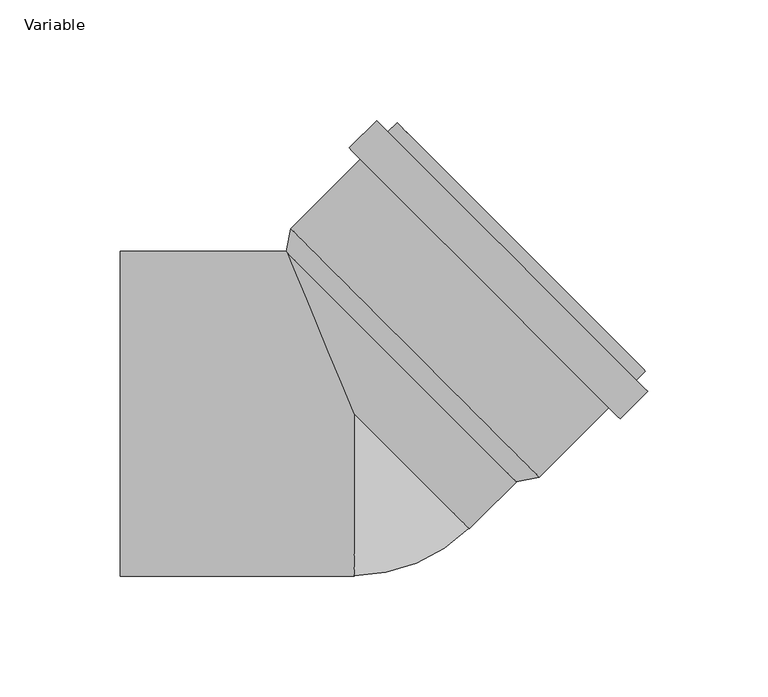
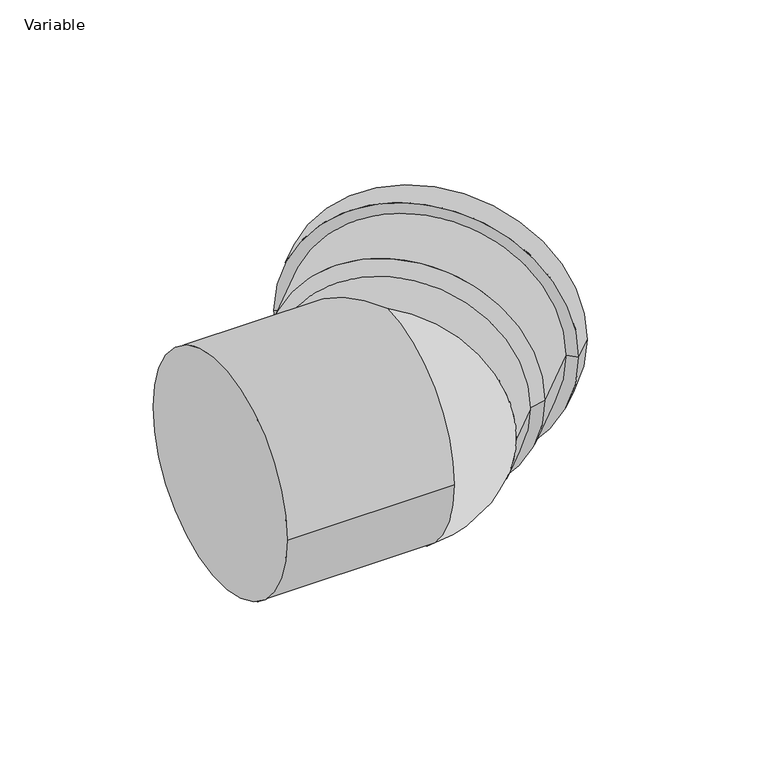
"""IFC4 building model written with IfcOpenShell, lengths in millimetres: pipe fitting geometry, AliaxisFR_Friaphon_ElbowMF_FR : Variable."""

from ifc_helpers import new_model, si_unit, point, frame, origin, place, context, project, spatial, polyline, circle_curve, ellipse_curve, trimmed, source, transform, mapped, element, save
from ifc_brep_helpers import plane_surface, cylinder_surface, revolved_surface, advanced_brep


def variable_8f7e54a3(model_context):
    return source(origin(), model_context, "Body", "AdvancedBrep", [
        advanced_brep(
        [(120.8445489, 17.7483802, 0.0), (17.7483802, 120.8445489, 0.0), (21.5667568, 117.0261723, 0.0), (117.0261723, 21.5667568, 0.0), (110.3086579, -2.1213203, 0.0), (-2.1213203, 110.3086579, 0.0), (9.2630988, 121.693077, 0.0), (121.693077, 9.2630988, 0.0), (105.6417531, 2.5455844, 0.0), (2.5455844, 105.6417531, 0.0), (76.7917964, -26.3043723, 0.0), (-26.3043723, 76.7917964, 0.0), (-28.2135606, 67.2458549, 0.0), (67.2458549, -28.2135606, 0.0), (117.0261723, 13.9300036, 0.0), (13.9300036, 117.0261723, 0.0)],
        [
            (0, 1, circle_curve(frame((69.2964646, 69.2964646, 0.0), z_axis=(0.707106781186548, 0.7071067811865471, 0.0), x_axis=(-0.7071067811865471, 0.707106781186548, 0.0)), 72.9)),
            (1, 2),
            (2, 3, circle_curve(frame((69.2964646, 69.2964646, 0.0), z_axis=(-0.707106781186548, -0.7071067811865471, 0.0), x_axis=(-0.7071067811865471, 0.707106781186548, 0.0)), 67.5)),
            (3, 0),
            (1, 0, circle_curve(frame((69.2964646, 69.2964646, 0.0), z_axis=(0.707106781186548, 0.7071067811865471, 0.0), x_axis=(-0.7071067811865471, 0.707106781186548, 0.0)), 72.9)),
            (3, 2, circle_curve(frame((69.2964646, 69.2964646, 0.0), z_axis=(-0.707106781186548, -0.7071067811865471, 0.0), x_axis=(-0.7071067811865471, 0.707106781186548, 0.0)), 67.5)),
            (4, 5, circle_curve(frame((54.0936688, 54.0936688, 0.0), z_axis=(0.707106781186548, 0.7071067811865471, 0.0), x_axis=(-0.7071067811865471, 0.707106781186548, 0.0)), 79.5)),
            (5, 6),
            (6, 7, circle_curve(frame((65.4780879, 65.4780879, 0.0), z_axis=(-0.707106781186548, -0.7071067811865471, 0.0), x_axis=(-0.7071067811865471, 0.707106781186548, 0.0)), 79.5)),
            (7, 4),
            (5, 4, circle_curve(frame((54.0936688, 54.0936688, 0.0), z_axis=(0.707106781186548, 0.7071067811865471, 0.0), x_axis=(-0.7071067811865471, 0.707106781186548, 0.0)), 79.5)),
            (7, 6, circle_curve(frame((65.4780879, 65.4780879, 0.0), z_axis=(-0.707106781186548, -0.7071067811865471, 0.0), x_axis=(-0.7071067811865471, 0.707106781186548, 0.0)), 79.5)),
            (8, 9, circle_curve(frame((54.0936688, 54.0936688, 0.0), z_axis=(0.707106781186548, 0.7071067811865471, 0.0), x_axis=(-0.7071067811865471, 0.707106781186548, 0.0)), 72.9)),
            (9, 5),
            (4, 8),
            (9, 8, circle_curve(frame((54.0936688, 54.0936688, 0.0), z_axis=(0.707106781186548, 0.7071067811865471, 0.0), x_axis=(-0.7071067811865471, 0.707106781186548, 0.0)), 72.9)),
            (10, 11, circle_curve(frame((25.2437121, 25.2437121, 0.0), z_axis=(0.707106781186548, 0.7071067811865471, 0.0), x_axis=(-0.7071067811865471, 0.707106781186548, 0.0)), 72.9)),
            (11, 9),
            (8, 10),
            (11, 10, circle_curve(frame((25.2437121, 25.2437121, 0.0), z_axis=(0.707106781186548, 0.7071067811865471, 0.0), x_axis=(-0.7071067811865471, 0.707106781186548, 0.0)), 72.9)),
            (2, 12),
            (12, 13, circle_curve(frame((19.5161472, 19.5161472, 0.0), z_axis=(-0.707106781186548, -0.7071067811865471, 0.0), x_axis=(-0.7071067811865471, 0.707106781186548, 0.0)), 67.5)),
            (13, 3),
            (13, 12, circle_curve(frame((19.5161472, 19.5161472, 0.0), z_axis=(-0.707106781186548, -0.7071067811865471, 0.0), x_axis=(-0.7071067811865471, 0.707106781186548, 0.0)), 67.5)),
            (12, 11),
            (10, 13),
            (14, 15, circle_curve(frame((65.4780879, 65.4780879, 0.0), z_axis=(0.707106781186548, 0.7071067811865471, 0.0), x_axis=(-0.7071067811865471, 0.707106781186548, 0.0)), 72.9)),
            (15, 1),
            (0, 14),
            (15, 14, circle_curve(frame((65.4780879, 65.4780879, 0.0), z_axis=(0.707106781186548, 0.7071067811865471, 0.0), x_axis=(-0.7071067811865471, 0.707106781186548, 0.0)), 72.9)),
            (6, 15),
            (14, 7),
        ],
        [
            plane_surface(frame((69.2964646, 69.2964646, 0.0), z_axis=(0.707106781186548, 0.7071067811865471, 0.0), x_axis=(-0.7071067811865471, 0.707106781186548, 0.0))),
            cylinder_surface(frame((19.5161472, 19.5161472, 0.0), z_axis=(-0.707106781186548, -0.7071067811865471, 0.0), x_axis=(-0.7071067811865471, 0.707106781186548, 0.0)), 79.5),
            plane_surface(frame((54.0936688, 54.0936688, 0.0), z_axis=(-0.707106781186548, -0.7071067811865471, 0.0), x_axis=(-0.7071067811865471, 0.707106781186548, 0.0))),
            cylinder_surface(frame((19.5161472, 19.5161472, 0.0), z_axis=(-0.707106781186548, -0.7071067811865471, 0.0), x_axis=(-0.7071067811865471, 0.707106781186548, 0.0)), 72.9),
            revolved_surface(polyline([(-28.21356058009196, 67.24585488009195, 0.0), (21.566756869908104, 117.02617233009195, 0.0)]), (19.5161472, 19.5161472, 0.0), (-0.707106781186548, -0.7071067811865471, 0.0)),
            revolved_surface(polyline([(-26.3043723, 76.7917964, 0.0), (-28.2135606, 67.2458549, 0.0)]), (19.5161472, 19.5161472, 0.0), (-0.707106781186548, -0.7071067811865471, 0.0)),
            plane_surface(frame((65.4780879, 65.4780879, 0.0), z_axis=(0.707106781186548, 0.7071067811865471, 0.0), x_axis=(-0.7071067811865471, 0.707106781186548, 0.0))),
        ],
        [
            (0, [[1, 2, 3, 4]]),
            (0, [[5, -4, 6, -2]]),
            (1, [[7, 8, 9, 10]]),
            (1, [[11, -10, 12, -8]]),
            (2, [[13, 14, -7, 15]]),
            (2, [[16, -15, -11, -14]]),
            (3, [[17, 18, -13, 19]]),
            (3, [[20, -19, -16, -18]]),
            (4, [[-3, 21, 22, 23]]),
            (4, [[-6, -23, 24, -21]]),
            (5, [[-22, 25, -17, 26]]),
            (5, [[-24, -26, -20, -25]]),
            (3, [[27, 28, -1, 29]]),
            (3, [[30, -29, -5, -28]]),
            (6, [[-9, 31, -27, 32]]),
            (6, [[-12, -32, -30, -31]]),
        ],
    ),
        advanced_brep(
        [(-24.395184, 71.0642315, 0.0), (71.0642315, -24.395184, 0.0), (47.7297077, -47.7297077, 0.0), (-27.9594155, 67.5, 0.0), (0.0, 0.0, 67.5), (0.0, 0.0, -67.5), (-97.0, -67.5, 0.0), (-97.0, 67.5, 0.0), (0.0, -67.5, 0.0)],
        [
            (0, 1, circle_curve(frame((23.3345238, 23.3345238, 0.0), z_axis=(0.7071067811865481, 0.707106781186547, 0.0), x_axis=(-0.707106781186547, 0.7071067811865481, 0.0)), 67.5)),
            (1, 0, circle_curve(frame((23.3345238, 23.3345238, 0.0), z_axis=(0.7071067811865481, 0.707106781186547, 0.0), x_axis=(-0.707106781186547, 0.7071067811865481, 0.0)), 67.5)),
            (2, 1),
            (0, 3),
            (3, 4, ellipse_curve(frame((0.0, 0.0, 0.0), z_axis=(0.923879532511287, 0.38268343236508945, 0.0), x_axis=(0.38268343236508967, -0.923879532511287, 0.0)), 73.0614735, 67.5)),
            (4, 2, circle_curve(frame((0.0, 0.0, 0.0), z_axis=(0.7071067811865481, 0.707106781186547, 0.0), x_axis=(-0.707106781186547, 0.7071067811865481, 0.0)), 67.5)),
            (2, 5, circle_curve(frame((0.0, 0.0, 0.0), z_axis=(0.7071067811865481, 0.707106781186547, 0.0), x_axis=(-0.707106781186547, 0.7071067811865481, 0.0)), 67.5)),
            (5, 3, ellipse_curve(frame((0.0, 0.0, 0.0), z_axis=(0.923879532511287, 0.38268343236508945, 0.0), x_axis=(0.38268343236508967, -0.923879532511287, 0.0)), 73.0614735, 67.5)),
            (6, 7, circle_curve(frame((-97.0, 0.0, 0.0), z_axis=(-1.0, 0.0, 0.0), x_axis=(0.0, 1.0, 0.0)), 67.5)),
            (7, 6, circle_curve(frame((-97.0, 0.0, 0.0), z_axis=(-1.0, 0.0, 0.0), x_axis=(0.0, 1.0, 0.0)), 67.5)),
            (6, 8),
            (8, 4, circle_curve(frame((0.0, 0.0, 0.0), z_axis=(-1.0, 0.0, 0.0), x_axis=(0.0, 1.0, 0.0)), 67.5)),
            (3, 7),
            (5, 8, circle_curve(frame((0.0, 0.0, 0.0), z_axis=(-1.0, 0.0, 0.0), x_axis=(0.0, 1.0, 0.0)), 67.5)),
        ],
        [
            plane_surface(frame((23.3345238, 23.3345238, 0.0), z_axis=(0.7071067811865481, 0.707106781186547, 0.0), x_axis=(0.0, 0.0, 1.0))),
            cylinder_surface(frame((0.0, 0.0, 0.0), z_axis=(-0.7071067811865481, -0.707106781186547, 0.0), x_axis=(-0.707106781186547, 0.7071067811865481, 0.0)), 67.5),
            plane_surface(frame((-97.0, 0.0, 0.0), z_axis=(-1.0, 0.0, 0.0), x_axis=(0.0, 0.0, 1.0))),
            cylinder_surface(frame((-97.0, 0.0, 0.0), z_axis=(-1.0, 0.0, 0.0), x_axis=(0.0, 1.0, 0.0)), 67.5),
            revolved_surface(trimmed(ellipse_curve(frame((0.0, 0.0, 0.0), z_axis=(0.7071067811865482, 0.707106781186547, 0.0), x_axis=(-0.707106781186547, 0.7071067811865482, 0.0)), 67.5, 67.5), [point((0.0, 0.0, 67.5))], [point((0.0, 0.0, -67.5))], True, "CARTESIAN"), (0.0, 0.0, 67.5), (0.0, 0.0, -1.0)),
        ],
        [
            (0, [[1, 2]]),
            (1, [[3, -1, 4, 5, 6]]),
            (1, [[-2, -3, 7, 8, -4]]),
            (2, [[9, 10]]),
            (3, [[-9, 11, 12, -5, 13]]),
            (3, [[-10, -13, -8, 14, -11]]),
            (4, [[-12, -14, -7, -6]]),
        ],
    ),
    ])


if __name__ == "__main__":
    model = new_model("IFC4")
    model_context = context("Model", 3, world=origin())
    ifc_project = project(units=[si_unit("LENGTHUNIT", "METRE", prefix="MILLI")], contexts=[model_context])
    site = spatial("IfcSite", under=ifc_project)
    building = spatial("IfcBuilding", under=site)
    placement = place(None, origin())
    variable_shape = variable_8f7e54a3(model_context)
    element("IfcPipeFitting", 1, ObjectType="AliaxisFR_Friaphon_ElbowMF_FR : Variable", at=placement, inside=building, context=model_context, shape_type="MappedRepresentation", body=[
        mapped(variable_shape, transform((0.0, 0.0, 0.0), x_axis=(1.0, 0.0, 0.0), y_axis=(0.0, 1.0, 0.0), z_axis=(0.0, 0.0, 1.0))),
    ])
    save(model, "model.ifc")
